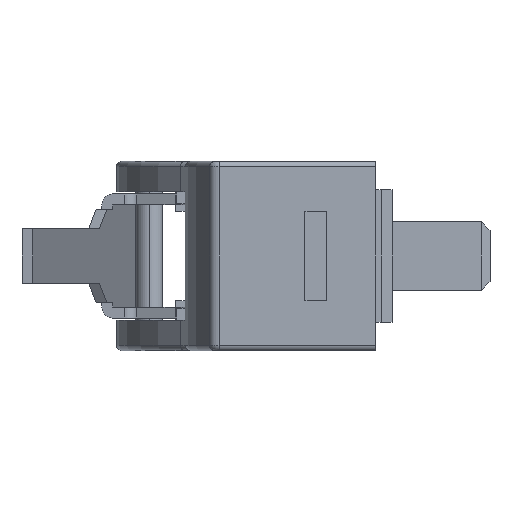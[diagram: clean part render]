
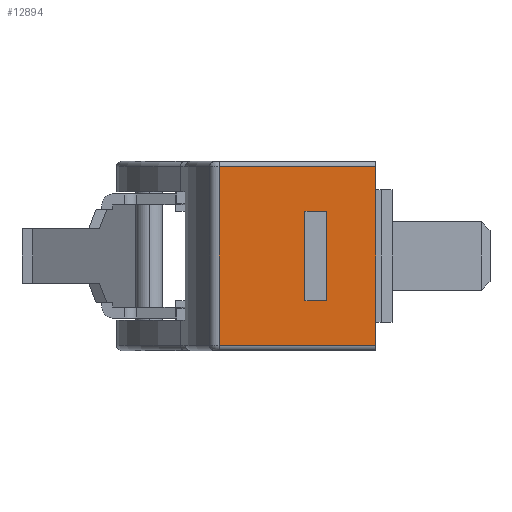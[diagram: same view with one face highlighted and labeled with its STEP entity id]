
A CAD part, left-side view. The second image highlights one B-rep face of the part: STEP entity #12894.
In plain terms, the highlighted planar face has unit normal (-1, 0, 0).
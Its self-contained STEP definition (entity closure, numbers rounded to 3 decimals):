
#12700 = VERTEX_POINT ( 'NONE', #15279 ) ;
#12702 = ORIENTED_EDGE ( 'NONE', *, *, #12705, .T. ) ;
#12705 = EDGE_CURVE ( 'NONE', #12733, #12735, #15277, .T. ) ;
#12710 = ORIENTED_EDGE ( 'NONE', *, *, #12712, .F. ) ;
#12712 = EDGE_CURVE ( 'NONE', #12872, #12869, #15267, .T. ) ;
#12714 = EDGE_LOOP ( 'NONE', ( #12850, #12903, #12907, #12875 ) ) ;
#12726 = EDGE_LOOP ( 'NONE', ( #12702, #12738, #12710, #12895 ) ) ;
#12733 = VERTEX_POINT ( 'NONE', #15370 ) ;
#12735 = VERTEX_POINT ( 'NONE', #15367 ) ;
#12738 = ORIENTED_EDGE ( 'NONE', *, *, #12865, .T. ) ;
#12850 = ORIENTED_EDGE ( 'NONE', *, *, #12853, .T. ) ;
#12853 = EDGE_CURVE ( 'NONE', #12901, #12855, #15433, .T. ) ;
#12855 = VERTEX_POINT ( 'NONE', #15427 ) ;
#12856 = VERTEX_POINT ( 'NONE', #15425 ) ;
#12865 = EDGE_CURVE ( 'NONE', #12735, #12869, #15541, .T. ) ;
#12869 = VERTEX_POINT ( 'NONE', #15534 ) ;
#12872 = VERTEX_POINT ( 'NONE', #15532 ) ;
#12875 = ORIENTED_EDGE ( 'NONE', *, *, #12877, .T. ) ;
#12877 = EDGE_CURVE ( 'NONE', #12700, #12901, #15526, .T. ) ;
#12894 = ADVANCED_FACE ( 'NONE', ( #15591, #15589 ), #15587, .F. ) ;
#12895 = ORIENTED_EDGE ( 'NONE', *, *, #12898, .T. ) ;
#12898 = EDGE_CURVE ( 'NONE', #12872, #12733, #15585, .T. ) ;
#12901 = VERTEX_POINT ( 'NONE', #15575 ) ;
#12903 = ORIENTED_EDGE ( 'NONE', *, *, #12905, .T. ) ;
#12905 = EDGE_CURVE ( 'NONE', #12855, #12856, #15573, .T. ) ;
#12907 = ORIENTED_EDGE ( 'NONE', *, *, #12909, .T. ) ;
#12909 = EDGE_CURVE ( 'NONE', #12856, #12700, #15566, .T. ) ;
#15261 = DIRECTION ( 'NONE',  ( 0., 0., -1. ) ) ;
#15263 = VECTOR ( 'NONE', #15261, 1000. ) ;
#15265 = CARTESIAN_POINT ( 'NONE',  ( -35.2, -3.8, 8.7 ) ) ;
#15267 = LINE ( 'NONE', #15265, #15263 ) ;
#15271 = DIRECTION ( 'NONE',  ( 0., 0., -1. ) ) ;
#15273 = VECTOR ( 'NONE', #15271, 1000. ) ;
#15275 = CARTESIAN_POINT ( 'NONE',  ( -35.2, 10.561, 8.7 ) ) ;
#15277 = LINE ( 'NONE', #15275, #15273 ) ;
#15279 = CARTESIAN_POINT ( 'NONE',  ( -35.2, 2.7, -4.1 ) ) ;
#15367 = CARTESIAN_POINT ( 'NONE',  ( -35.2, 10.561, -8.2 ) ) ;
#15370 = CARTESIAN_POINT ( 'NONE',  ( -35.2, 10.561, 8.2 ) ) ;
#15425 = CARTESIAN_POINT ( 'NONE',  ( -35.2, 0.7, -4.1 ) ) ;
#15427 = CARTESIAN_POINT ( 'NONE',  ( -35.2, 0.7, 4.1 ) ) ;
#15428 = DIRECTION ( 'NONE',  ( 0., -1., 0. ) ) ;
#15430 = VECTOR ( 'NONE', #15428, 1000. ) ;
#15432 = CARTESIAN_POINT ( 'NONE',  ( -35.2, 2.7, 4.1 ) ) ;
#15433 = LINE ( 'NONE', #15432, #15430 ) ;
#15521 = DIRECTION ( 'NONE',  ( 0., 0., 1. ) ) ;
#15523 = VECTOR ( 'NONE', #15521, 1000. ) ;
#15524 = CARTESIAN_POINT ( 'NONE',  ( -35.2, 2.7, 4.1 ) ) ;
#15526 = LINE ( 'NONE', #15524, #15523 ) ;
#15532 = CARTESIAN_POINT ( 'NONE',  ( -35.2, -3.8, 8.2 ) ) ;
#15534 = CARTESIAN_POINT ( 'NONE',  ( -35.2, -3.8, -8.2 ) ) ;
#15537 = DIRECTION ( 'NONE',  ( 0., -1., 0. ) ) ;
#15538 = VECTOR ( 'NONE', #15537, 1000. ) ;
#15539 = CARTESIAN_POINT ( 'NONE',  ( -35.2, 10.561, -8.2 ) ) ;
#15541 = LINE ( 'NONE', #15539, #15538 ) ;
#15562 = DIRECTION ( 'NONE',  ( 0., 1., 0. ) ) ;
#15563 = VECTOR ( 'NONE', #15562, 1000. ) ;
#15565 = CARTESIAN_POINT ( 'NONE',  ( -35.2, 2.7, -4.1 ) ) ;
#15566 = LINE ( 'NONE', #15565, #15563 ) ;
#15570 = DIRECTION ( 'NONE',  ( 0., 0., -1. ) ) ;
#15571 = VECTOR ( 'NONE', #15570, 1000. ) ;
#15572 = CARTESIAN_POINT ( 'NONE',  ( -35.2, 0.7, 4.1 ) ) ;
#15573 = LINE ( 'NONE', #15572, #15571 ) ;
#15575 = CARTESIAN_POINT ( 'NONE',  ( -35.2, 2.7, 4.1 ) ) ;
#15576 = DIRECTION ( 'NONE',  ( 0., 1., 0. ) ) ;
#15577 = VECTOR ( 'NONE', #15576, 1000. ) ;
#15579 = CARTESIAN_POINT ( 'NONE',  ( -35.2, 10.561, 8.2 ) ) ;
#15582 = DIRECTION ( 'NONE',  ( 0., 0., -1. ) ) ;
#15583 = DIRECTION ( 'NONE',  ( 1., 0., 0. ) ) ;
#15584 = CARTESIAN_POINT ( 'NONE',  ( -35.2, 10.561, 8.7 ) ) ;
#15585 = LINE ( 'NONE', #15579, #15577 ) ;
#15586 = AXIS2_PLACEMENT_3D ( 'NONE', #15584, #15583, #15582 ) ;
#15587 = PLANE ( 'NONE',  #15586 ) ;
#15589 = FACE_BOUND ( 'NONE', #12714, .T. ) ;
#15591 = FACE_OUTER_BOUND ( 'NONE', #12726, .T. ) ;
